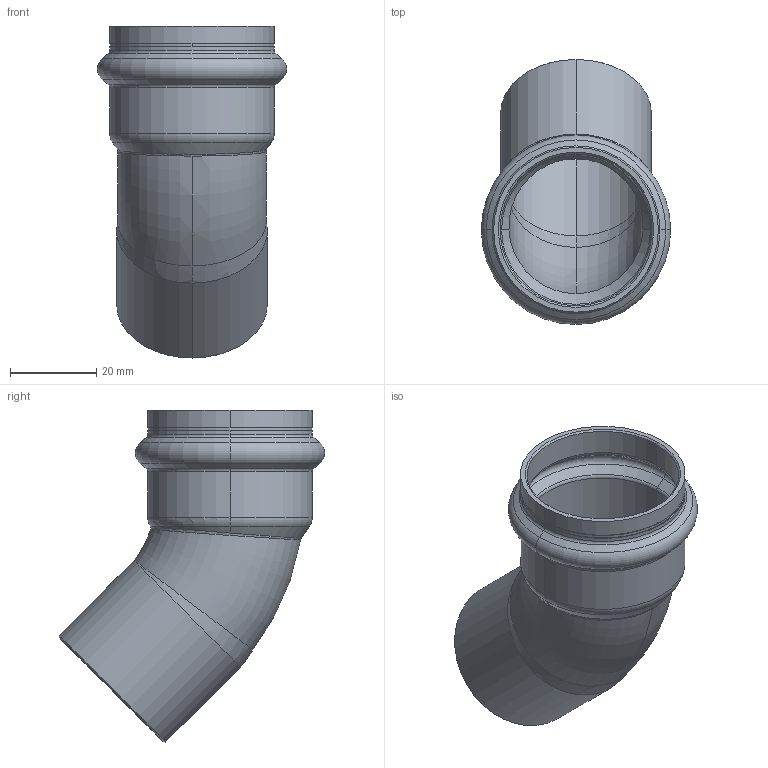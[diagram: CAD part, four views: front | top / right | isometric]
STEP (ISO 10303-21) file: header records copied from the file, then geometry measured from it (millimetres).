
FILE_DESCRIPTION (( 'STEP AP203' ), '1' );
FILE_NAME ('SP5040 Ø35.STEP', '2017-04-24T08:10:32', ( '' ), ( '' ), 'SwSTEP 2.0', 'SolidWorks 2016', '' );
FILE_SCHEMA (( 'CONFIG_CONTROL_DESIGN' ));
Length unit declared in the file: millimetre
Products named in the file (1): SP5040 ﾘ35
Bounding box: 44 x 61.67 x 77.17 mm (x, y, z)
Volume: 13464.1 mm3; surface area: 17335.8 mm2
Topology: 1 solids, 1 shells, 63 faces, 131 edges, 72 vertices
Faces by surface type: torus 20, cone 17, cylinder 16, bspline 6, plane 4
Entity records: 2569 total; most frequent: CARTESIAN_POINT 1151, DIRECTION 314, ORIENTED_EDGE 262, AXIS2_PLACEMENT_3D 141, EDGE_CURVE 131, CIRCLE 83, VERTEX_POINT 72, EDGE_LOOP 67
